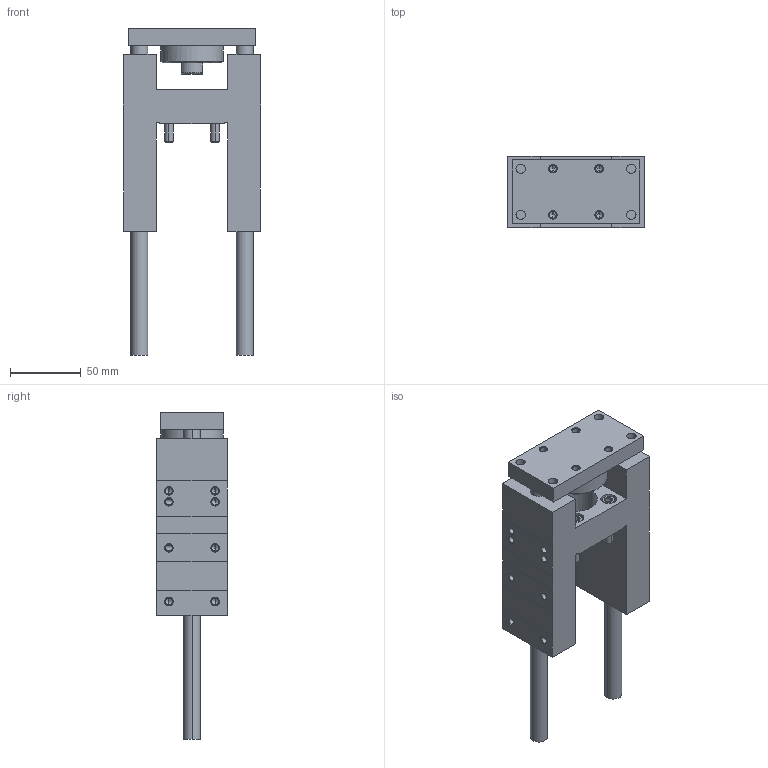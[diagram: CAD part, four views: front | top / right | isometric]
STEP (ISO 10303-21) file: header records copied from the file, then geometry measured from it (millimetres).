
FILE_DESCRIPTION (( 'STEP AP203' ), '1' );
FILE_NAME ('GB32-75.STEP', '2020-04-24T11:08:06', ( '' ), ( '' ), 'SwSTEP 2.0', 'SolidWorks 2019', '' );
FILE_SCHEMA (( 'CONFIG_CONTROL_DESIGN' ));
Length unit declared in the file: millimetre
Products named in the file (1): GB32-75
Bounding box: 97 x 50 x 230 mm (x, y, z)
Volume: 410900.9 mm3; surface area: 98011.3 mm2
Topology: 6 solids, 6 shells, 377 faces, 862 edges, 494 vertices
Faces by surface type: cone 154, plane 117, cylinder 106
Entity records: 11155 total; most frequent: CARTESIAN_POINT 2540, DIRECTION 1916, ORIENTED_EDGE 1660, EDGE_CURVE 830, AXIS2_PLACEMENT_3D 756, VERTEX_POINT 494, EDGE_LOOP 444, VECTOR 404
